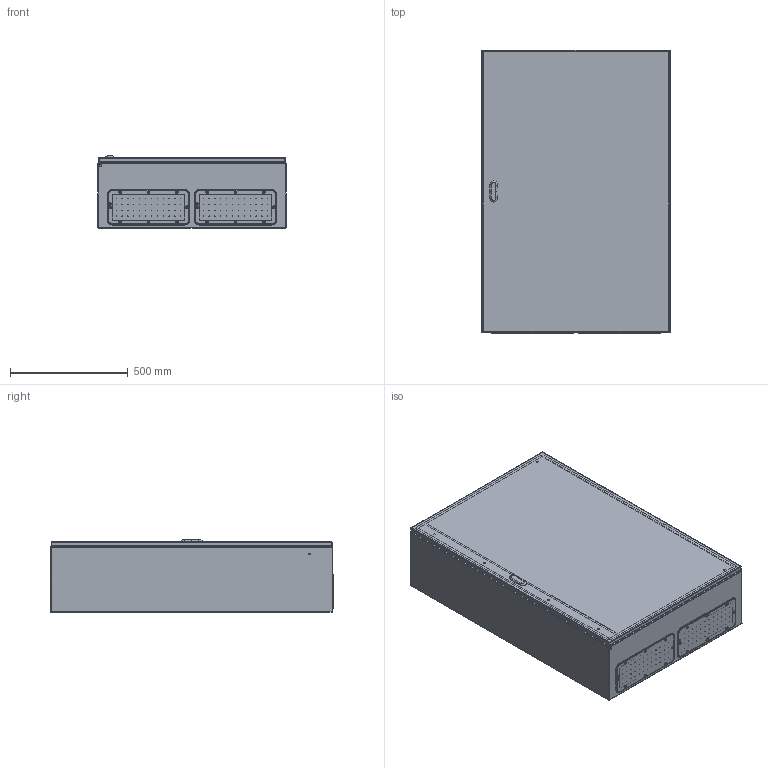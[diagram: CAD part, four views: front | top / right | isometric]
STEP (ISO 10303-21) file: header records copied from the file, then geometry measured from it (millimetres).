
FILE_DESCRIPTION (( 'STEP AP203' ), '1' );
FILE_NAME ('0800x1200x0300 dx.step', '2021-09-07T06:42:37', ( '' ), ( '' ), 'SwSTEP 2.0', 'SolidWorks 2021', '' );
FILE_SCHEMA (( 'CONFIG_CONTROL_DESIGN' ));
Length unit declared in the file: millimetre
Products named in the file (7): AR_ECOR_flangia IC_04; AR_ECOR_chiusura_std_cariglione_0ARSE125; AR_ECOR_porta_singola_0800x1200; AR_ECOR_montaggio_porta_singola_0800x1200 dx; AR_ECOR_Piastra_23; 0800x1200x0300 dx; AR_ECOR_involucro_0800x1200x0300
Assembly tree (7 placements, depth 3):
  0800x1200x0300 dx
    AR_ECOR_involucro_0800x1200x0300
    AR_ECOR_montaggio_porta_singola_0800x1200 dx
      AR_ECOR_porta_singola_0800x1200
      AR_ECOR_chiusura_std_cariglione_0ARSE125
    AR_ECOR_flangia IC_04  x2
    AR_ECOR_Piastra_23
Bounding box: 800 x 1204 x 307 mm (x, y, z)
Volume: 7682336.2 mm3; surface area: 8473532.8 mm2
Topology: 6 solids, 6 shells, 1250 faces, 3057 edges, 1936 vertices
Faces by surface type: cylinder 661, plane 331, cone 116, torus 74, bspline 52, sphere 16
Entity records: 30331 total; most frequent: CARTESIAN_POINT 6005, DIRECTION 5279, ORIENTED_EDGE 4642, EDGE_CURVE 2321, AXIS2_PLACEMENT_3D 2137, VERTEX_POINT 1480, EDGE_LOOP 1311, CIRCLE 1218
